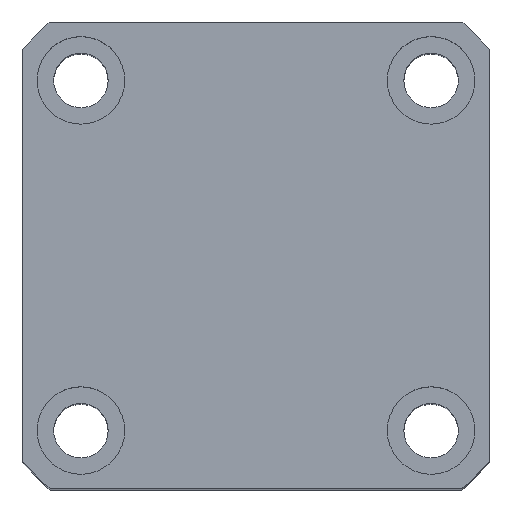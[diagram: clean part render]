
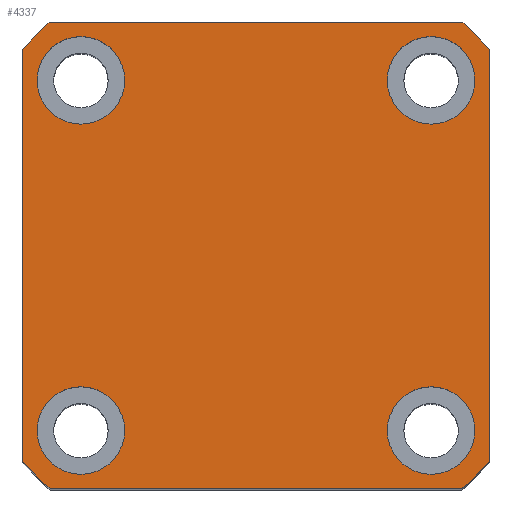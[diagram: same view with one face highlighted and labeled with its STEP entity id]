
A CAD part, top view. The second image highlights one B-rep face of the part: STEP entity #4337.
In plain terms, the highlighted planar face has unit normal (0, 0, 1) as drawn and (1, 0, 0) by its records, which use the part's own axes.
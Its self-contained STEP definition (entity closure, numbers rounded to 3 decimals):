
#39 = AXIS2_PLACEMENT_3D ( 'NONE', #6886, #3158, #7508 ) ;
#111 = CARTESIAN_POINT ( 'NONE',  ( 65., 0., 0. ) ) ;
#233 = CARTESIAN_POINT ( 'NONE',  ( 65., -18., 18. ) ) ;
#236 = VECTOR ( 'NONE', #6386, 1000. ) ;
#462 = ORIENTED_EDGE ( 'NONE', *, *, #2731, .T. ) ;
#466 = DIRECTION ( 'NONE',  ( 1., 0., 0. ) ) ;
#755 = CARTESIAN_POINT ( 'NONE',  ( 65., 24., 21.166 ) ) ;
#819 = CARTESIAN_POINT ( 'NONE',  ( 65., -18., -18. ) ) ;
#847 = DIRECTION ( 'NONE',  ( 0., 0., -1. ) ) ;
#866 = CARTESIAN_POINT ( 'NONE',  ( 65., 18., 18. ) ) ;
#1053 = AXIS2_PLACEMENT_3D ( 'NONE', #233, #4548, #847 ) ;
#1130 = EDGE_CURVE ( 'NONE', #5965, #6097, #5370, .T. ) ;
#1131 = VERTEX_POINT ( 'NONE', #7467 ) ;
#1169 = FACE_OUTER_BOUND ( 'NONE', #5756, .T. ) ;
#1225 = CARTESIAN_POINT ( 'NONE',  ( 65., 18., -22.5 ) ) ;
#1260 = CIRCLE ( 'NONE', #3843, 32. ) ;
#1300 = DIRECTION ( 'NONE',  ( 0., 1., 0. ) ) ;
#1338 = CARTESIAN_POINT ( 'NONE',  ( 65., 24., -24. ) ) ;
#1362 = PLANE ( 'NONE',  #6928 ) ;
#1371 = EDGE_LOOP ( 'NONE', ( #1416, #2768 ) ) ;
#1392 = LINE ( 'NONE', #7068, #7807 ) ;
#1413 = CARTESIAN_POINT ( 'NONE',  ( 65., -24., 21.166 ) ) ;
#1416 = ORIENTED_EDGE ( 'NONE', *, *, #4062, .F. ) ;
#1418 = VERTEX_POINT ( 'NONE', #6119 ) ;
#1432 = DIRECTION ( 'NONE',  ( 0., 0., -1. ) ) ;
#1436 = CARTESIAN_POINT ( 'NONE',  ( 65., 0., 0. ) ) ;
#1487 = DIRECTION ( 'NONE',  ( 0., 0., -1. ) ) ;
#1646 = EDGE_CURVE ( 'NONE', #4616, #6862, #2931, .T. ) ;
#1851 = LINE ( 'NONE', #2620, #236 ) ;
#1891 = EDGE_CURVE ( 'NONE', #5594, #1418, #7708, .T. ) ;
#2057 = DIRECTION ( 'NONE',  ( 0., 0., -1. ) ) ;
#2072 = VERTEX_POINT ( 'NONE', #2824 ) ;
#2101 = VERTEX_POINT ( 'NONE', #3691 ) ;
#2223 = AXIS2_PLACEMENT_3D ( 'NONE', #7517, #7335, #7359 ) ;
#2230 = AXIS2_PLACEMENT_3D ( 'NONE', #866, #5203, #1487 ) ;
#2247 = CIRCLE ( 'NONE', #5938, 4.5 ) ;
#2388 = ORIENTED_EDGE ( 'NONE', *, *, #4442, .T. ) ;
#2530 = CARTESIAN_POINT ( 'NONE',  ( 65., 0., 0. ) ) ;
#2533 = VECTOR ( 'NONE', #1300, 1000. ) ;
#2613 = FACE_BOUND ( 'NONE', #3295, .T. ) ;
#2620 = CARTESIAN_POINT ( 'NONE',  ( 65., 24., 24. ) ) ;
#2636 = VERTEX_POINT ( 'NONE', #1225 ) ;
#2664 = DIRECTION ( 'NONE',  ( 1., 0., 0. ) ) ;
#2670 = EDGE_CURVE ( 'NONE', #2636, #1131, #2247, .T. ) ;
#2731 = EDGE_CURVE ( 'NONE', #1418, #3772, #5553, .T. ) ;
#2768 = ORIENTED_EDGE ( 'NONE', *, *, #5484, .F. ) ;
#2824 = CARTESIAN_POINT ( 'NONE',  ( 65., -21.166, 24. ) ) ;
#2866 = AXIS2_PLACEMENT_3D ( 'NONE', #3125, #3062, #3089 ) ;
#2931 = CIRCLE ( 'NONE', #2866, 32. ) ;
#3036 = CIRCLE ( 'NONE', #4749, 4.5 ) ;
#3050 = CARTESIAN_POINT ( 'NONE',  ( 65., -18., -13.5 ) ) ;
#3062 = DIRECTION ( 'NONE',  ( 1., 0., 0. ) ) ;
#3088 = VERTEX_POINT ( 'NONE', #5946 ) ;
#3089 = DIRECTION ( 'NONE',  ( 0., 0., -1. ) ) ;
#3125 = CARTESIAN_POINT ( 'NONE',  ( 65., 0., 0. ) ) ;
#3158 = DIRECTION ( 'NONE',  ( 1., 0., 0. ) ) ;
#3170 = DIRECTION ( 'NONE',  ( 0., 0., -1. ) ) ;
#3185 = ORIENTED_EDGE ( 'NONE', *, *, #4666, .F. ) ;
#3188 = DIRECTION ( 'NONE',  ( 1., 0., 0. ) ) ;
#3249 = CARTESIAN_POINT ( 'NONE',  ( 65., -18., -22.5 ) ) ;
#3295 = EDGE_LOOP ( 'NONE', ( #3390, #5595 ) ) ;
#3313 = CARTESIAN_POINT ( 'NONE',  ( 65., 18., -18. ) ) ;
#3316 = CIRCLE ( 'NONE', #2230, 4.5 ) ;
#3343 = DIRECTION ( 'NONE',  ( 0., -1., 0. ) ) ;
#3390 = ORIENTED_EDGE ( 'NONE', *, *, #5481, .F. ) ;
#3530 = VERTEX_POINT ( 'NONE', #1413 ) ;
#3542 = EDGE_CURVE ( 'NONE', #3772, #4616, #1851, .T. ) ;
#3689 = VERTEX_POINT ( 'NONE', #4645 ) ;
#3691 = CARTESIAN_POINT ( 'NONE',  ( 65., -24., -21.166 ) ) ;
#3772 = VERTEX_POINT ( 'NONE', #5391 ) ;
#3843 = AXIS2_PLACEMENT_3D ( 'NONE', #1436, #5783, #2057 ) ;
#3864 = ORIENTED_EDGE ( 'NONE', *, *, #3970, .T. ) ;
#3868 = CARTESIAN_POINT ( 'NONE',  ( 65., -24., 24. ) ) ;
#3970 = EDGE_CURVE ( 'NONE', #2101, #5594, #5949, .T. ) ;
#4026 = EDGE_LOOP ( 'NONE', ( #5586, #7186 ) ) ;
#4062 = EDGE_CURVE ( 'NONE', #7960, #3088, #3316, .T. ) ;
#4165 = CARTESIAN_POINT ( 'NONE',  ( 65., 18., -18. ) ) ;
#4264 = FACE_BOUND ( 'NONE', #4769, .T. ) ;
#4337 = ADVANCED_FACE ( 'NONE', ( #2613, #4264, #5729, #7384, #1169 ), #1362, .T. ) ;
#4442 = EDGE_CURVE ( 'NONE', #2072, #3530, #1260, .T. ) ;
#4548 = DIRECTION ( 'NONE',  ( 1., 0., 0. ) ) ;
#4613 = CIRCLE ( 'NONE', #1053, 4.5 ) ;
#4616 = VERTEX_POINT ( 'NONE', #755 ) ;
#4645 = CARTESIAN_POINT ( 'NONE',  ( 65., -18., 22.5 ) ) ;
#4666 = EDGE_CURVE ( 'NONE', #7085, #3689, #4613, .T. ) ;
#4749 = AXIS2_PLACEMENT_3D ( 'NONE', #4165, #466, #4801 ) ;
#4769 = EDGE_LOOP ( 'NONE', ( #3185, #7179 ) ) ;
#4801 = DIRECTION ( 'NONE',  ( 0., 0., -1. ) ) ;
#4845 = EDGE_CURVE ( 'NONE', #3530, #2101, #6571, .T. ) ;
#4899 = AXIS2_PLACEMENT_3D ( 'NONE', #6404, #2664, #7036 ) ;
#4971 = CIRCLE ( 'NONE', #39, 4.5 ) ;
#5083 = VECTOR ( 'NONE', #5762, 1000. ) ;
#5138 = ORIENTED_EDGE ( 'NONE', *, *, #4845, .T. ) ;
#5145 = DIRECTION ( 'NONE',  ( 1., 0., 0. ) ) ;
#5203 = DIRECTION ( 'NONE',  ( 1., 0., 0. ) ) ;
#5370 = CIRCLE ( 'NONE', #2223, 4.5 ) ;
#5391 = CARTESIAN_POINT ( 'NONE',  ( 65., 24., -21.166 ) ) ;
#5463 = CIRCLE ( 'NONE', #6143, 4.5 ) ;
#5481 = EDGE_CURVE ( 'NONE', #6097, #5965, #5463, .T. ) ;
#5484 = EDGE_CURVE ( 'NONE', #3088, #7960, #7143, .T. ) ;
#5553 = CIRCLE ( 'NONE', #7583, 32. ) ;
#5586 = ORIENTED_EDGE ( 'NONE', *, *, #2670, .F. ) ;
#5594 = VERTEX_POINT ( 'NONE', #5832 ) ;
#5595 = ORIENTED_EDGE ( 'NONE', *, *, #1130, .F. ) ;
#5675 = EDGE_CURVE ( 'NONE', #6862, #2072, #1392, .T. ) ;
#5681 = ORIENTED_EDGE ( 'NONE', *, *, #5675, .T. ) ;
#5688 = ORIENTED_EDGE ( 'NONE', *, *, #3542, .T. ) ;
#5729 = FACE_BOUND ( 'NONE', #4026, .T. ) ;
#5756 = EDGE_LOOP ( 'NONE', ( #7532, #462, #5688, #6159, #5681, #2388, #5138, #3864 ) ) ;
#5762 = DIRECTION ( 'NONE',  ( 0., 0., -1. ) ) ;
#5783 = DIRECTION ( 'NONE',  ( 1., 0., 0. ) ) ;
#5807 = EDGE_CURVE ( 'NONE', #1131, #2636, #3036, .T. ) ;
#5832 = CARTESIAN_POINT ( 'NONE',  ( 65., -21.166, -24. ) ) ;
#5938 = AXIS2_PLACEMENT_3D ( 'NONE', #3313, #6296, #6128 ) ;
#5946 = CARTESIAN_POINT ( 'NONE',  ( 65., 18., 22.5 ) ) ;
#5949 = CIRCLE ( 'NONE', #7386, 32. ) ;
#5965 = VERTEX_POINT ( 'NONE', #3050 ) ;
#6016 = EDGE_CURVE ( 'NONE', #3689, #7085, #4971, .T. ) ;
#6097 = VERTEX_POINT ( 'NONE', #3249 ) ;
#6119 = CARTESIAN_POINT ( 'NONE',  ( 65., 21.166, -24. ) ) ;
#6128 = DIRECTION ( 'NONE',  ( 0., 0., -1. ) ) ;
#6143 = AXIS2_PLACEMENT_3D ( 'NONE', #819, #5145, #1432 ) ;
#6159 = ORIENTED_EDGE ( 'NONE', *, *, #1646, .T. ) ;
#6296 = DIRECTION ( 'NONE',  ( 1., 0., 0. ) ) ;
#6386 = DIRECTION ( 'NONE',  ( 0., 0., 1. ) ) ;
#6404 = CARTESIAN_POINT ( 'NONE',  ( 65., 18., 18. ) ) ;
#6571 = LINE ( 'NONE', #3868, #5083 ) ;
#6630 = DIRECTION ( 'NONE',  ( 0., 0., -1. ) ) ;
#6658 = DIRECTION ( 'NONE',  ( 1., 0., 0. ) ) ;
#6815 = CARTESIAN_POINT ( 'NONE',  ( 65., 18., 13.5 ) ) ;
#6862 = VERTEX_POINT ( 'NONE', #7457 ) ;
#6886 = CARTESIAN_POINT ( 'NONE',  ( 65., -18., 18. ) ) ;
#6899 = DIRECTION ( 'NONE',  ( 1., 0., 0. ) ) ;
#6917 = CARTESIAN_POINT ( 'NONE',  ( 65., 0., 0. ) ) ;
#6928 = AXIS2_PLACEMENT_3D ( 'NONE', #2530, #6899, #3170 ) ;
#7036 = DIRECTION ( 'NONE',  ( 0., 0., -1. ) ) ;
#7068 = CARTESIAN_POINT ( 'NONE',  ( 65., 24., 24. ) ) ;
#7085 = VERTEX_POINT ( 'NONE', #7094 ) ;
#7094 = CARTESIAN_POINT ( 'NONE',  ( 65., -18., 13.5 ) ) ;
#7143 = CIRCLE ( 'NONE', #4899, 4.5 ) ;
#7179 = ORIENTED_EDGE ( 'NONE', *, *, #6016, .F. ) ;
#7186 = ORIENTED_EDGE ( 'NONE', *, *, #5807, .F. ) ;
#7335 = DIRECTION ( 'NONE',  ( 1., 0., 0. ) ) ;
#7359 = DIRECTION ( 'NONE',  ( 0., 0., -1. ) ) ;
#7384 = FACE_BOUND ( 'NONE', #1371, .T. ) ;
#7386 = AXIS2_PLACEMENT_3D ( 'NONE', #6917, #3188, #7531 ) ;
#7457 = CARTESIAN_POINT ( 'NONE',  ( 65., 21.166, 24. ) ) ;
#7467 = CARTESIAN_POINT ( 'NONE',  ( 65., 18., -13.5 ) ) ;
#7508 = DIRECTION ( 'NONE',  ( 0., 0., -1. ) ) ;
#7517 = CARTESIAN_POINT ( 'NONE',  ( 65., -18., -18. ) ) ;
#7531 = DIRECTION ( 'NONE',  ( 0., 0., -1. ) ) ;
#7532 = ORIENTED_EDGE ( 'NONE', *, *, #1891, .T. ) ;
#7583 = AXIS2_PLACEMENT_3D ( 'NONE', #111, #6658, #6630 ) ;
#7708 = LINE ( 'NONE', #1338, #2533 ) ;
#7807 = VECTOR ( 'NONE', #3343, 1000. ) ;
#7960 = VERTEX_POINT ( 'NONE', #6815 ) ;
